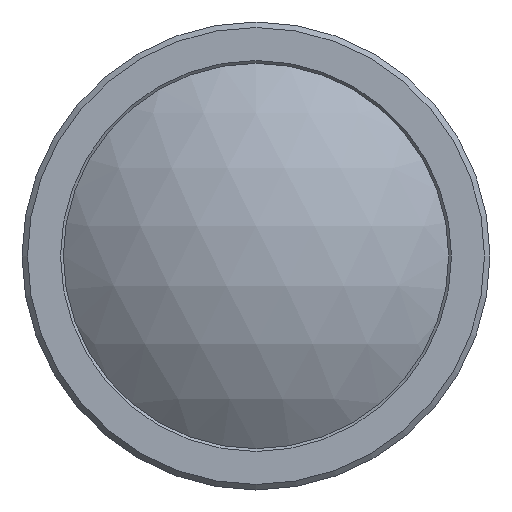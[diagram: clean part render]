
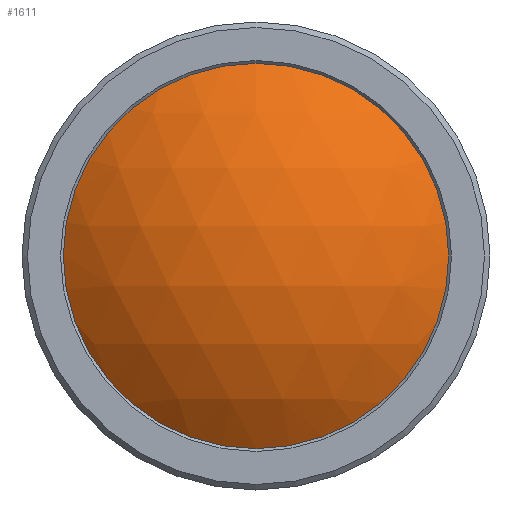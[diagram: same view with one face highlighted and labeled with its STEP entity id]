
A CAD part, left-side view. The second image highlights one B-rep face of the part: STEP entity #1611.
In plain terms, the highlighted spherical face has radius 11.2 mm.
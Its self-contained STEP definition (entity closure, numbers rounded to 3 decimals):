
#26=SPHERICAL_SURFACE('',#1779,11.2);
#324=FACE_OUTER_BOUND('',#438,.T.);
#438=EDGE_LOOP('',(#1165));
#556=CIRCLE('',#1778,7.);
#713=VERTEX_POINT('',#2707);
#881=EDGE_CURVE('',#713,#713,#556,.T.);
#1165=ORIENTED_EDGE('',*,*,#881,.T.);
#1611=ADVANCED_FACE('',(#324),#26,.T.);
#1778=AXIS2_PLACEMENT_3D('',#2708,#2115,#2116);
#1779=AXIS2_PLACEMENT_3D('',#2710,#2118,#2119);
#2115=DIRECTION('center_axis',(-1.,0.,0.));
#2116=DIRECTION('ref_axis',(0.,-1.,0.));
#2118=DIRECTION('center_axis',(0.,0.,-1.));
#2119=DIRECTION('ref_axis',(0.,1.,0.));
#2707=CARTESIAN_POINT('',(234.441,-99.77,0.));
#2708=CARTESIAN_POINT('Origin',(234.441,-106.77,0.));
#2710=CARTESIAN_POINT('Origin',(243.184,-106.77,0.));
